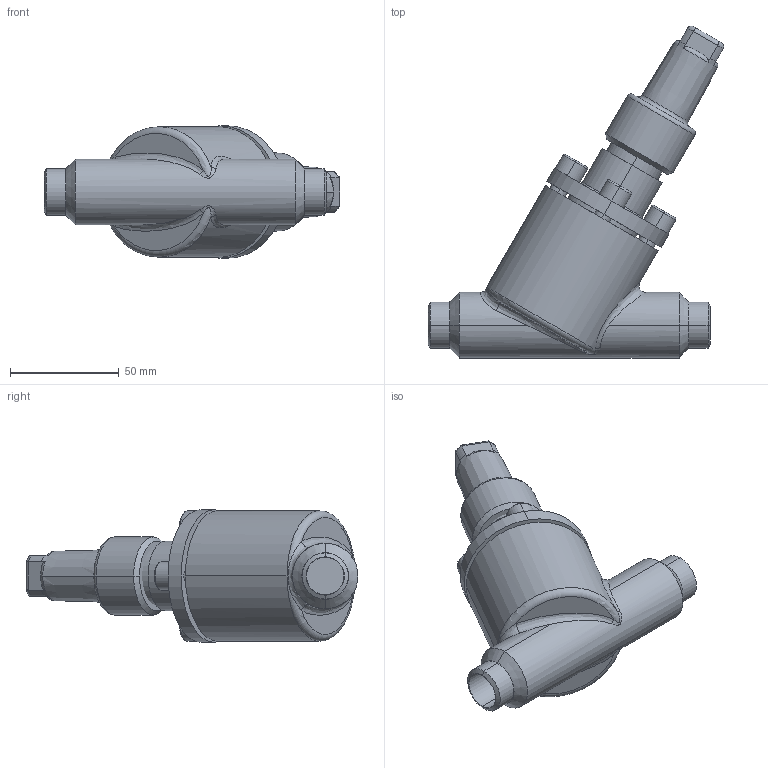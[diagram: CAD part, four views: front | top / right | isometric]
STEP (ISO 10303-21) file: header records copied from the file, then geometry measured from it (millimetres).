
FILE_DESCRIPTION (( 'STEP AP214' ), '1' );
FILE_NAME ('AVB16300D10-DN015_R1_PS40.STEP', '2006-04-27T12:15:36', ( 'Herr Grams' ), ( 'AWP GmbH' ), 'SwSTEP 2.0', 'SolidWorks 2002296', '' );
FILE_SCHEMA (( 'AUTOMOTIVE_DESIGN' ));
Length unit declared in the file: millimetre
Products named in the file (6): AVB16300D10-DN015_R1_PS40; Kappe96300E10_DN6-20_Standard; Gehäuse16300-DN015_Standard; AVB16300K10_Deck+Schr-DN10-20_Standard; Zylinderschraube-DIN912_M 8x 16; Deckel16300K10-DN10-20_Standard
Assembly tree (8 placements, depth 3):
  AVB16300D10-DN015_R1_PS40
    AVB16300K10_Deck+Schr-DN10-20_Standard
      Zylinderschraube-DIN912_M 8x 16  x4
      Deckel16300K10-DN10-20_Standard
    Gehäuse16300-DN015_Standard
    Kappe96300E10_DN6-20_Standard
Bounding box: 136.23 x 152.92 x 61 mm (x, y, z)
Volume: 270616.6 mm3; surface area: 59009 mm2
Topology: 7 solids, 7 shells, 217 faces, 467 edges, 292 vertices
Faces by surface type: cylinder 83, plane 77, cone 26, torus 25, bspline 6
Entity records: 17966 total; most frequent: CARTESIAN_POINT 13716, DIRECTION 838, ORIENTED_EDGE 706, AXIS2_PLACEMENT_3D 358, EDGE_CURVE 353, VERTEX_POINT 220, EDGE_LOOP 193, CIRCLE 189
